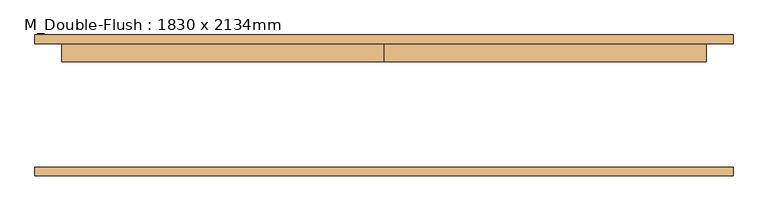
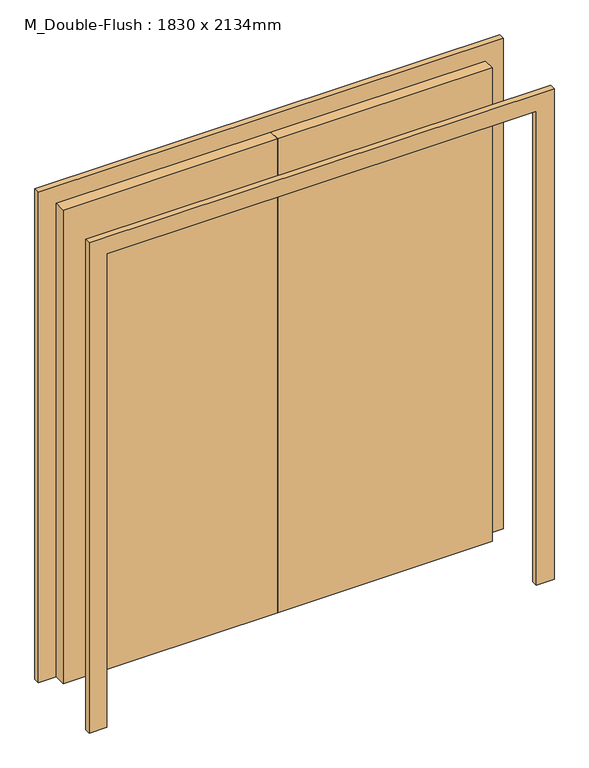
"""IFC4 building model written with IfcOpenShell, lengths in millimetres: door geometry, M_Double-Flush : 1830 x 2134mm."""

from ifc_helpers import new_model, si_unit, frame, origin, origin_with_axes, place, context, project, spatial, polyline, outline, extrude, source, transform, mapped, element, save


def m_double_flush_1830_x_2134mm_224c2c1d(model_context):
    return source(origin(), model_context, "Body", "SweptSolid", [
        extrude(outline(polyline([(0.0, 175.0), (915.0, 175.0), (915.0, 124.0), (0.0, 124.0), (0.0, 175.0)])), origin_with_axes(), (0.0, 0.0, 1.0), 2134.0),
        extrude(outline(polyline([(-915.0, 175.0), (0.0, 175.0), (0.0, 124.0), (-915.0, 124.0), (-915.0, 175.0)])), origin_with_axes(), (0.0, 0.0, 1.0), 2134.0),
        extrude(outline(polyline([(2134.0, -915.0), (2134.0, 915.0), (0.0, 915.0), (0.0, 991.0), (2210.0, 991.0), (2210.0, -991.0), (0.0, -991.0), (0.0, -915.0), (2134.0, -915.0)])), frame((0.0, -200.0, 0.0), z_axis=(0.0, 1.0, 0.0), x_axis=(0.0, 0.0, 1.0)), (0.0, 0.0, 1.0), 25.0),
        extrude(outline(polyline([(2134.0, -915.0), (2134.0, 915.0), (0.0, 915.0), (0.0, 991.0), (2210.0, 991.0), (2210.0, -991.0), (0.0, -991.0), (0.0, -915.0), (2134.0, -915.0)])), frame((0.0, 175.0, 0.0), z_axis=(0.0, 1.0, 0.0), x_axis=(0.0, 0.0, 1.0)), (0.0, 0.0, 1.0), 25.0),
    ])


if __name__ == "__main__":
    model = new_model("IFC4")
    model_context = context("Model", 3, world=origin())
    ifc_project = project(units=[si_unit("LENGTHUNIT", "METRE", prefix="MILLI")], contexts=[model_context])
    site = spatial("IfcSite", under=ifc_project)
    building = spatial("IfcBuilding", under=site)
    placement = place(None, origin())
    m_double_flush_1830_x_2134mm_shape = m_double_flush_1830_x_2134mm_224c2c1d(model_context)
    element("IfcDoor", 1, ObjectType="M_Double-Flush : 1830 x 2134mm", at=placement, inside=building, context=model_context, shape_type="MappedRepresentation", body=[
        mapped(m_double_flush_1830_x_2134mm_shape, transform((0.0, 0.0, 0.0), x_axis=(1.0, 0.0, 0.0), y_axis=(0.0, 1.0, 0.0), z_axis=(0.0, 0.0, 1.0))),
    ])
    save(model, "model.ifc")
